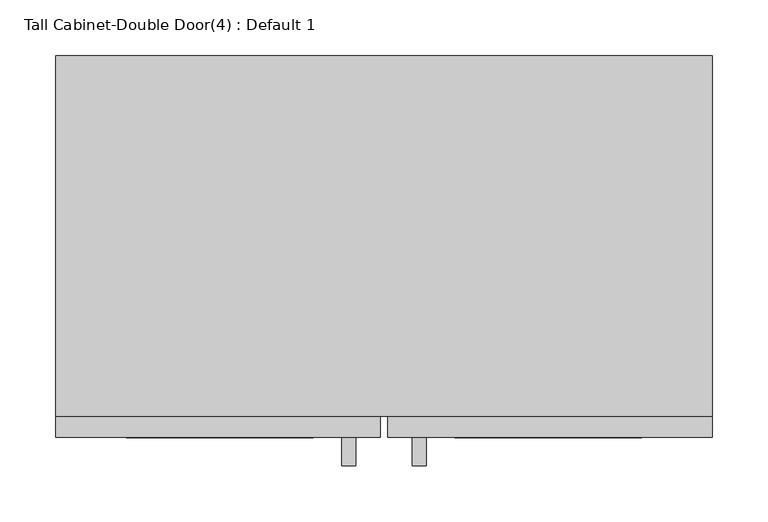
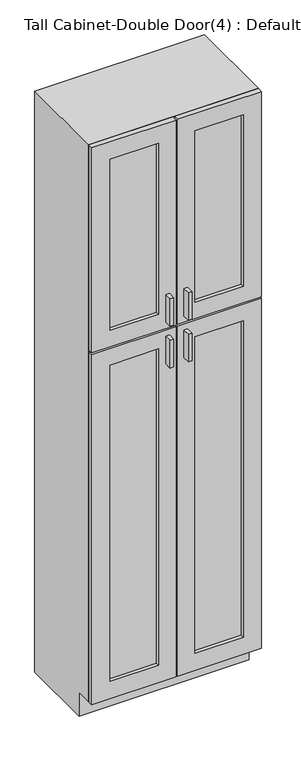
"""IFC4 building model written with IfcOpenShell, lengths in millimetres: furniture geometry, Tall Cabinet-Double Door(4) : Default 1."""

import ifcopenshell
import ifcopenshell.guid

model = None  # the IFC model being written
_history = None  # IfcOwnerHistory: only IFC2X3 demands one
_inside = {}  # id of a spatial element -> (the spatial element, [elements in it])
_under = {}  # id of a project, library or spatial element -> (it, [spatial elements below it])
_declared = {}  # id of a project -> (the project, [libraries it declares])
_typed = {}  # id of a type object -> (the type object, [elements of that type])
_made_of = {}  # id of a material, layer set ... -> (it, [elements and type objects made of it])


def new_model(schema):
    """Start an empty IFC model of exactly this schema.

    Asked for "IFC4X3", IfcOpenShell would pick the latest addendum, in which some entities
    have other attributes; the version numbers below select the first issue.
    IFC2X3 requires an IfcOwnerHistory on every rooted entity: one is made here for all.
    """
    global model, _history
    if schema == "IFC4X3":
        model = ifcopenshell.file(schema_version=(4, 3, 0, 0))
    else:
        model = ifcopenshell.file(schema=schema)
    _inside.clear()
    _under.clear()
    _declared.clear()
    _typed.clear()
    _made_of.clear()
    _history = None
    if model.schema == "IFC2X3":
        org = make("IfcOrganization", Name="unknown")
        user = make(
            "IfcPersonAndOrganization",
            ThePerson=make("IfcPerson", FamilyName="unknown"),
            TheOrganization=org,
        )
        app = make(
            "IfcApplication",
            ApplicationDeveloper=org,
            Version="unknown",
            ApplicationFullName="unknown",
            ApplicationIdentifier="unknown",
        )
        _history = make(
            "IfcOwnerHistory",
            OwningUser=user,
            OwningApplication=app,
            ChangeAction="ADDED",
            CreationDate=0,
        )
    return model


def make(cls, **values):
    """One entity of the class cls with the attributes given. An attribute that is None is left unset."""
    return model.create_entity(
        cls, **{name: value for name, value in values.items() if value is not None}
    )


def rooted(cls, **values):
    """An entity with a GlobalId (a new one), such as an element, a storey or a relation."""
    return make(cls, GlobalId=ifcopenshell.guid.new(), OwnerHistory=_history, **values)


def si_unit(unit_type, name, prefix=None):
    """IfcSIUnit, for example si_unit("LENGTHUNIT", "METRE", prefix="MILLI")."""
    return make("IfcSIUnit", UnitType=unit_type, Prefix=prefix, Name=name)


def assignment(units):
    """IfcUnitAssignment: the units of a project."""
    return None if units is None else make("IfcUnitAssignment", Units=units)


def point(xyz):
    """IfcCartesianPoint."""
    return None if xyz is None else make("IfcCartesianPoint", Coordinates=xyz)


def direction(xyz):
    """IfcDirection."""
    return None if xyz is None else make("IfcDirection", DirectionRatios=xyz)


def frame(location, z_axis=None, x_axis=None):
    """IfcAxis2Placement3D, a coordinate frame: its origin and axes. An axis left out is left unset."""
    return make(
        "IfcAxis2Placement3D",
        Location=point(location),
        Axis=direction(z_axis),
        RefDirection=direction(x_axis),
    )


def origin():
    """The frame at (0, 0, 0) with its axes left unset."""
    return frame((0.0, 0.0, 0.0))


def place(relative_to, where):
    """IfcLocalPlacement: puts the frame where relative to a parent placement (None: the world)."""
    return make(
        "IfcLocalPlacement", PlacementRelTo=relative_to, RelativePlacement=where
    )


def context(
    kind, dimensions, precision=None, world=None, true_north=None, identifier=None
):
    """IfcGeometricRepresentationContext, for example the 3D "Model" context."""
    return make(
        "IfcGeometricRepresentationContext",
        ContextIdentifier=identifier,
        ContextType=kind,
        CoordinateSpaceDimension=dimensions,
        Precision=precision,
        WorldCoordinateSystem=world,
        TrueNorth=true_north,
    )


def project(units=None, contexts=None):
    """IfcProject with its units and contexts."""
    return rooted(
        "IfcProject",
        Name="project",
        RepresentationContexts=contexts,
        UnitsInContext=assignment(units),
    )


def spatial(cls, under=None, at=None, **own):
    """A site, building, storey or space (cls), placed at a placement, below another one or the project."""
    s = rooted(cls, ObjectPlacement=at, **own)
    if under is not None:
        _under.setdefault(under.id(), (under, []))[1].append(s)
    return s


def polyline(points):
    """IfcPolyline through the points."""
    return make("IfcPolyline", Points=[point(p) for p in points])


def outline(outer, holes=None, kind="AREA"):
    """IfcArbitraryClosedProfileDef: a profile drawn as a closed curve; with holes, ...WithVoids."""
    if holes is None:
        return make("IfcArbitraryClosedProfileDef", ProfileType=kind, OuterCurve=outer)
    return make(
        "IfcArbitraryProfileDefWithVoids",
        ProfileType=kind,
        OuterCurve=outer,
        InnerCurves=holes,
    )


def extrude(swept, where, along, depth):
    """IfcExtrudedAreaSolid: the profile swept, set in the frame where, extruded along a direction by depth."""
    return make(
        "IfcExtrudedAreaSolid",
        SweptArea=swept,
        Position=where,
        ExtrudedDirection=direction(along),
        Depth=depth,
    )


def faces_of(points, faces, orient=None, outer=None):
    """IfcFace entities. A face is a list of loops; a loop is a list of indices into points, from 0.

    orient and outer hold one flag for each loop. By default every Orientation is true, the
    first loop of a face is its IfcFaceOuterBound and the others are IfcFaceBound.
    """
    made = []
    for i, loops in enumerate(faces):
        bounds = []
        for j, loop in enumerate(loops):
            is_outer = j == 0 if outer is None else outer[i][j]
            bounds.append(
                make(
                    "IfcFaceOuterBound" if is_outer else "IfcFaceBound",
                    Bound=make("IfcPolyLoop", Polygon=[points[k] for k in loop]),
                    Orientation=True if orient is None else orient[i][j],
                )
            )
        made.append(make("IfcFace", Bounds=bounds))
    return made


def faceted_brep(points, faces, orient=None, outer=None, voids=None):
    """IfcFacetedBrep: a solid bounded by flat faces; with voids (closed shells), ...WithVoids."""
    shared = [point(p) for p in points]
    hull = make("IfcClosedShell", CfsFaces=faces_of(shared, faces, orient, outer))
    if voids is None:
        return make("IfcFacetedBrep", Outer=hull)
    return make(
        "IfcFacetedBrepWithVoids",
        Outer=hull,
        Voids=[
            make(cls, CfsFaces=faces_of(shared, fs, o, b)) for cls, fs, o, b in voids
        ],
    )


def shape(context_of_items, identifier, shape_type, items):
    """IfcShapeRepresentation: the items that make up one representation, for example the "Body"."""
    return make(
        "IfcShapeRepresentation",
        ContextOfItems=context_of_items,
        RepresentationIdentifier=identifier,
        RepresentationType=shape_type,
        Items=items,
    )


def source(mapping_origin, context_of_items, identifier, shape_type, items):
    """IfcRepresentationMap: a shape defined once, which mapped items show again and again."""
    return make(
        "IfcRepresentationMap",
        MappingOrigin=mapping_origin,
        MappedRepresentation=shape(context_of_items, identifier, shape_type, items),
    )


def transform(
    local_origin,
    x_axis=None,
    y_axis=None,
    z_axis=None,
    scale=None,
    scale2=None,
    scale3=None,
    uniform=True,
):
    """IfcCartesianTransformationOperator3D, or its non-uniform kind. x_axis, y_axis, z_axis: its Axis1, 2, 3."""
    if uniform:
        return make(
            "IfcCartesianTransformationOperator3D",
            Axis1=direction(x_axis),
            Axis2=direction(y_axis),
            LocalOrigin=point(local_origin),
            Scale=scale,
            Axis3=direction(z_axis),
        )
    return make(
        "IfcCartesianTransformationOperator3DnonUniform",
        Axis1=direction(x_axis),
        Axis2=direction(y_axis),
        LocalOrigin=point(local_origin),
        Scale=scale,
        Axis3=direction(z_axis),
        Scale2=scale2,
        Scale3=scale3,
    )


def mapped(mapping_source, mapping_target):
    """IfcMappedItem: shows the shape of a source again, moved by a transform."""
    return make(
        "IfcMappedItem", MappingSource=mapping_source, MappingTarget=mapping_target
    )


def made_of(thing, what):
    """Note that an element or type object is made of a material, layer set ...; save() writes the relation."""
    if what is not None:
        _made_of.setdefault(what.id(), (what, []))[1].append(thing)
    return thing


def element(
    cls,
    number,
    at=None,
    inside=None,
    cuts=None,
    type_object=None,
    material=None,
    context=None,
    identifier="Body",
    shape_type=None,
    held_by="IfcProductDefinitionShape",
    body=None,
    shapes=None,
    **own,
):
    """One element of the class cls, such as IfcWall. Its Tag is "e" and its number.

    at: its placement. inside: the storey or other place that contains it. cuts: it is an
    opening in that element (IfcRelVoidsElement). A single representation is given by context,
    identifier, shape_type and body (its items); several are given by shapes. held_by: the class
    of the entity that holds the representations. save() writes the other relations.
    """
    e = rooted(cls, Tag="e%d" % number, ObjectPlacement=at, **own)
    if body is not None:
        shapes = [shape(context, identifier, shape_type, body)]
    if shapes is not None:
        e.Representation = make(held_by, Representations=shapes)
    if inside is not None:
        _inside.setdefault(inside.id(), (inside, []))[1].append(e)
    if cuts is not None:
        rooted(
            "IfcRelVoidsElement", RelatingBuildingElement=cuts, RelatedOpeningElement=e
        )
    if type_object is not None:
        _typed.setdefault(type_object.id(), (type_object, []))[1].append(e)
    return made_of(e, material)


def aggregate(whole, parts):
    """IfcRelAggregates: a whole, such as a stair, and the parts it consists of."""
    return rooted("IfcRelAggregates", RelatingObject=whole, RelatedObjects=parts)


def save(model, path):
    """Write the relations noted so far, then the file.

    IfcRelAggregates (storeys below a building ...), IfcRelContainedInSpatialStructure (elements
    in a storey), IfcRelDefinesByType, IfcRelAssociatesMaterial and IfcRelDeclares: one each for
    every whole, place, type object, material and project.
    """
    for whole, parts in _under.values():
        aggregate(whole, parts)
    for where, things in _inside.values():
        rooted(
            "IfcRelContainedInSpatialStructure",
            RelatedElements=things,
            RelatingStructure=where,
        )
    for kind, things in _typed.values():
        rooted("IfcRelDefinesByType", RelatedObjects=things, RelatingType=kind)
    for what, things in _made_of.values():
        rooted("IfcRelAssociatesMaterial", RelatedObjects=things, RelatingMaterial=what)
    for by, libraries in _declared.values():
        rooted("IfcRelDeclares", RelatingContext=by, RelatedDefinitions=libraries)
    model.write(path)


def tall_cabinet_double_door_4_default_1_5a30d7e3(model_context):
    return source(origin(), model_context, "Body", "SolidModel", [
        faceted_brep([(313.82032, -323.85, 90.4875), (313.82032, -323.85, 2133.6), (-276.3449102, -323.85, 2133.6), (-276.3449102, -323.85, 90.4875), (294.77032, -323.85, 2114.55), (294.77032, -323.85, 109.5375), (-257.2949102, -323.85, 109.5375), (-257.2949102, -323.85, 2114.55), (-276.3449102, 0.0, 2133.6), (313.82032, 0.0, 2133.6), (313.82032, 0.0, 1.5875), (-276.3449102, 0.0, 1.5875), (294.77032, 0.0, 2114.55), (-257.2949102, 0.0, 2114.55), (-257.2949102, 0.0, 109.5375), (294.77032, 0.0, 109.5375), (313.82032, -266.7, 90.4875), (313.82032, -266.7, 1.5875), (-276.3449102, -266.7, 1.5875), (-276.3449102, -266.7, 90.4875)], [[[0, 1, 2, 3], [4, 5, 6, 7]], [[8, 9, 10, 11], [12, 13, 14, 15]], [[1, 0, 16, 17, 10, 9]], [[2, 1, 9, 8]], [[3, 2, 8, 11, 18, 19]], [[0, 3, 19, 16]], [[5, 4, 12, 15]], [[6, 5, 15, 14]], [[7, 6, 14, 13]], [[4, 7, 13, 12]], [[10, 17, 18, 11]], [[18, 17, 16, 19]]]),
        extrude(outline(polyline([(-6.6622951, -368.3), (-19.1945267, -368.3), (-19.1945267, -342.9), (-6.6622951, -342.9), (-6.6622951, -368.3)])), frame((0.0, 0.0, 1403.5480367), z_axis=(0.0, 0.0, 1.0), x_axis=(1.0, 0.0, 0.0)), (0.0, 0.0, 1.0), 101.6),
        extrude(outline(polyline([(56.6699365, -368.3), (44.1377049, -368.3), (44.1377049, -342.9), (56.6699365, -342.9), (56.6699365, -368.3)])), frame((0.0, 0.0, 1403.5480367), z_axis=(0.0, 0.0, 1.0), x_axis=(1.0, 0.0, 0.0)), (0.0, 0.0, 1.0), 101.6),
        extrude(outline(polyline([(-6.6622951, -368.3), (-19.1945267, -368.3), (-19.1945267, -342.9), (-6.6622951, -342.9), (-6.6622951, -368.3)])), frame((0.0, 0.0, 1251.1480367), z_axis=(0.0, 0.0, 1.0), x_axis=(1.0, 0.0, 0.0)), (0.0, 0.0, 1.0), 101.6),
        extrude(outline(polyline([(56.6699365, -368.3), (44.1377049, -368.3), (44.1377049, -342.9), (56.6699365, -342.9), (56.6699365, -368.3)])), frame((0.0, 0.0, 1251.1480367), z_axis=(0.0, 0.0, 1.0), x_axis=(1.0, 0.0, 0.0)), (0.0, 0.0, 1.0), 101.6),
        extrude(outline(polyline([(-44.7622951, -330.2), (-212.8449102, -330.2), (-212.8449102, -323.85), (-44.7622951, -323.85), (-44.7622951, -330.2)])), frame((0.0, 0.0, 1441.6480367), z_axis=(0.0, 0.0, 1.0), x_axis=(1.0, 0.0, 0.0)), (0.0, 0.0, 1.0), 628.4519633),
        extrude(outline(polyline([(250.32032, -330.2), (82.2377049, -330.2), (82.2377049, -323.85), (250.32032, -323.85), (250.32032, -330.2)])), frame((0.0, 0.0, 1441.6480367), z_axis=(0.0, 0.0, 1.0), x_axis=(1.0, 0.0, 0.0)), (0.0, 0.0, 1.0), 628.4519633),
        extrude(outline(polyline([(-44.7622951, -330.2), (-212.8449102, -330.2), (-212.8449102, -323.85), (-44.7622951, -323.85), (-44.7622951, -330.2)])), frame((0.0, 0.0, 153.9875), z_axis=(0.0, 0.0, 1.0), x_axis=(1.0, 0.0, 0.0)), (0.0, 0.0, 1.0), 1160.6605367),
        extrude(outline(polyline([(250.32032, -330.2), (82.2377049, -330.2), (82.2377049, -323.85), (250.32032, -323.85), (250.32032, -330.2)])), frame((0.0, 0.0, 153.9875), z_axis=(0.0, 0.0, 1.0), x_axis=(1.0, 0.0, 0.0)), (0.0, 0.0, 1.0), 1160.6605367),
        extrude(outline(polyline([(2133.6, 15.5627049), (2133.6, -276.3449102), (1381.3230367, -276.3449102), (1381.3230367, 15.5627049), (2133.6, 15.5627049)]), holes=[polyline([(2070.1, -44.7622951), (1441.6480367, -44.7622951), (1441.6480367, -212.8449102), (2070.1, -212.8449102), (2070.1, -44.7622951)])]), frame((0.0, -342.9, 0.0), z_axis=(0.0, 1.0, 0.0), x_axis=(0.0, 0.0, 1.0)), (0.0, 0.0, 1.0), 19.05),
        extrude(outline(polyline([(2133.6, 21.9127049), (1381.3230367, 21.9127049), (1381.3230367, 313.82032), (2133.6, 313.82032), (2133.6, 21.9127049)]), holes=[polyline([(2070.1, 250.32032), (1441.6480367, 250.32032), (1441.6480367, 82.2377049), (2070.1, 82.2377049), (2070.1, 250.32032)])]), frame((0.0, -342.9, 0.0), z_axis=(0.0, 1.0, 0.0), x_axis=(0.0, 0.0, 1.0)), (0.0, 0.0, 1.0), 19.05),
        extrude(outline(polyline([(90.4875, 21.9127049), (90.4875, 313.82032), (1374.9730367, 313.82032), (1374.9730367, 21.9127049), (90.4875, 21.9127049)]), holes=[polyline([(1314.6480367, 82.2377049), (1314.6480367, 250.32032), (153.9875, 250.32032), (153.9875, 82.2377049), (1314.6480367, 82.2377049)])]), frame((0.0, -342.9, 0.0), z_axis=(0.0, 1.0, 0.0), x_axis=(0.0, 0.0, 1.0)), (0.0, 0.0, 1.0), 19.05),
        extrude(outline(polyline([(90.4875, 15.5627049), (1374.9730367, 15.5627049), (1374.9730367, -276.3449102), (90.4875, -276.3449102), (90.4875, 15.5627049)]), holes=[polyline([(1314.6480367, -44.7622951), (153.9875, -44.7622951), (153.9875, -212.8449102), (1314.6480367, -212.8449102), (1314.6480367, -44.7622951)])]), frame((0.0, -342.9, 0.0), z_axis=(0.0, 1.0, 0.0), x_axis=(0.0, 0.0, 1.0)), (0.0, 0.0, 1.0), 19.05),
        extrude(outline(polyline([(294.77032, -19.05), (-257.2949102, -19.05), (-257.2949102, 0.0), (294.77032, 0.0), (294.77032, -19.05)])), frame((0.0, 0.0, 109.5375), z_axis=(0.0, 0.0, 1.0), x_axis=(1.0, 0.0, 0.0)), (0.0, 0.0, 1.0), 2005.0125),
    ])


if __name__ == "__main__":
    model = new_model("IFC4")
    model_context = context("Model", 3, world=origin())
    ifc_project = project(units=[si_unit("LENGTHUNIT", "METRE", prefix="MILLI")], contexts=[model_context])
    site = spatial("IfcSite", under=ifc_project)
    building = spatial("IfcBuilding", under=site)
    placement = place(None, origin())
    tall_cabinet_double_door_4_default_1_shape = tall_cabinet_double_door_4_default_1_5a30d7e3(model_context)
    element("IfcFurniture", 1, ObjectType="Tall Cabinet-Double Door(4) : Default 1", at=placement, inside=building, context=model_context, shape_type="MappedRepresentation", body=[
        mapped(tall_cabinet_double_door_4_default_1_shape, transform((0.0, 0.0, 0.0), x_axis=(1.0, 0.0, 0.0), y_axis=(0.0, 1.0, 0.0), z_axis=(0.0, 0.0, 1.0))),
    ])
    save(model, "model.ifc")
